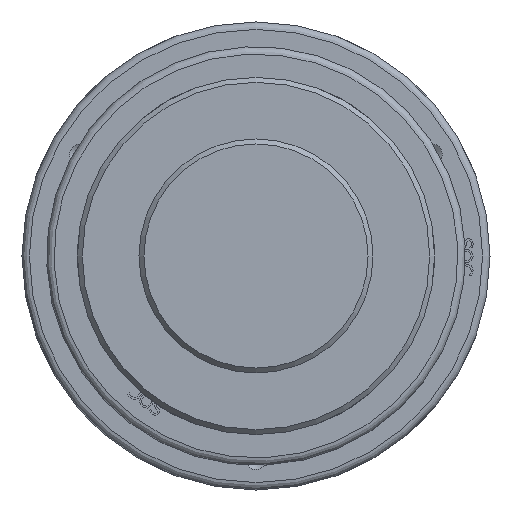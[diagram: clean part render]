
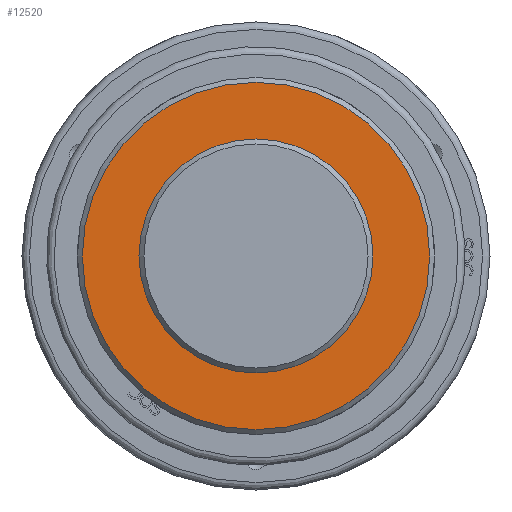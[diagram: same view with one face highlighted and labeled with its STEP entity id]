
A CAD part, front view. The second image highlights one B-rep face of the part: STEP entity #12520.
In plain terms, the highlighted planar face has unit normal (0, -1, 0) as drawn and (0, 1, 0) by its records, which use the part's own axes.
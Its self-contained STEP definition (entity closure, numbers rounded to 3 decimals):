
#90=CIRCLE('',#13171,70.5);
#92=CIRCLE('',#13175,44.253);
#173=FACE_BOUND('',#1651,.T.);
#407=PLANE('',#13174);
#888=FACE_OUTER_BOUND('',#1650,.T.);
#1650=EDGE_LOOP('',(#9894));
#1651=EDGE_LOOP('',(#9895));
#5586=VERTEX_POINT('',#19180);
#5600=VERTEX_POINT('',#19420);
#7137=EDGE_CURVE('',#5586,#5586,#90,.T.);
#7151=EDGE_CURVE('',#5600,#5600,#92,.T.);
#9894=ORIENTED_EDGE('',*,*,#7137,.F.);
#9895=ORIENTED_EDGE('',*,*,#7151,.T.);
#12520=ADVANCED_FACE('',(#888,#173),#407,.T.);
#13171=AXIS2_PLACEMENT_3D('',#19181,#14328,#14329);
#13174=AXIS2_PLACEMENT_3D('',#19419,#14334,#14335);
#13175=AXIS2_PLACEMENT_3D('',#19421,#14336,#14337);
#14328=DIRECTION('center_axis',(0.,-1.,0.));
#14329=DIRECTION('ref_axis',(1.,0.,0.));
#14334=DIRECTION('center_axis',(0.,1.,0.));
#14335=DIRECTION('ref_axis',(0.,0.,1.));
#14336=DIRECTION('center_axis',(0.,-1.,0.));
#14337=DIRECTION('ref_axis',(1.,0.,0.));
#19180=CARTESIAN_POINT('',(-70.5,47.5,0.));
#19181=CARTESIAN_POINT('Origin',(0.,47.5,0.));
#19419=CARTESIAN_POINT('Origin',(0.,47.5,0.));
#19420=CARTESIAN_POINT('',(-44.253,47.5,0.));
#19421=CARTESIAN_POINT('Origin',(0.,47.5,0.));
